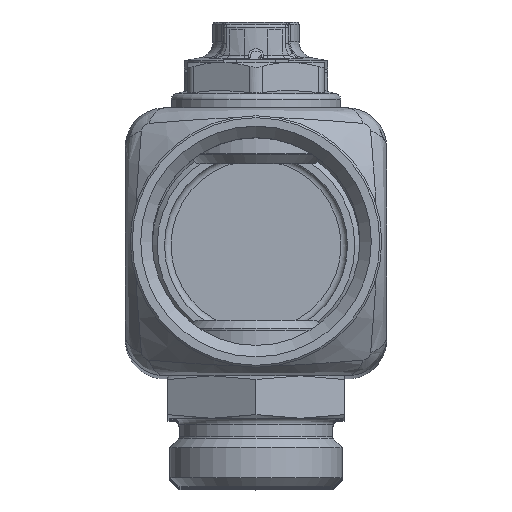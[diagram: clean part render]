
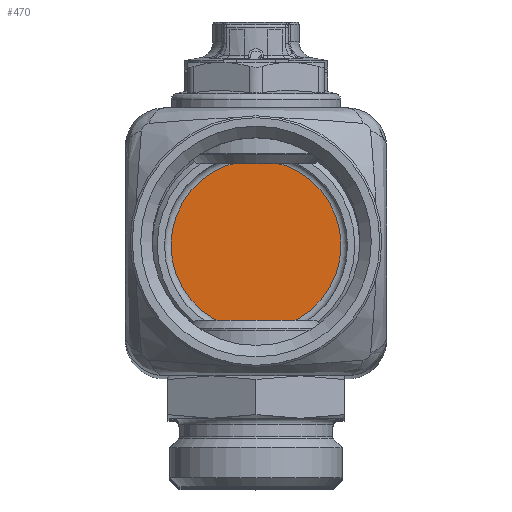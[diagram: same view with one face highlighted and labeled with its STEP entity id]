
A CAD part, top view. The second image highlights one B-rep face of the part: STEP entity #470.
In plain terms, the highlighted planar face has unit normal (0, 0, 1).
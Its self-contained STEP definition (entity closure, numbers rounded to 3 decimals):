
#470=ADVANCED_FACE('',(#5916),#5918,.T.);
#5916=FACE_BOUND('',#5917,.T.);
#5917=EDGE_LOOP('',(#14204));
#5918=PLANE('',#5919);
#5919=AXIS2_PLACEMENT_3D('',#5920,#5921,#5922);
#5920=CARTESIAN_POINT('',(0.,0.,-159.75));
#5921=DIRECTION('',(0.,0.,1.));
#5922=DIRECTION('',(1.,0.,0.));
#14204=ORIENTED_EDGE('',*,*,#17128,.T.);
#17128=EDGE_CURVE('',#19711,#19711,#19712,.T.);
#19711=VERTEX_POINT('',#26395);
#19712=CIRCLE('',#26396,13.);
#26395=CARTESIAN_POINT('',(13.,0.,-159.75));
#26396=AXIS2_PLACEMENT_3D('',#26397,#26398,#26399);
#26397=CARTESIAN_POINT('',(0.,0.,-159.75));
#26398=DIRECTION('',(0.,0.,1.));
#26399=DIRECTION('',(1.,0.,0.));
